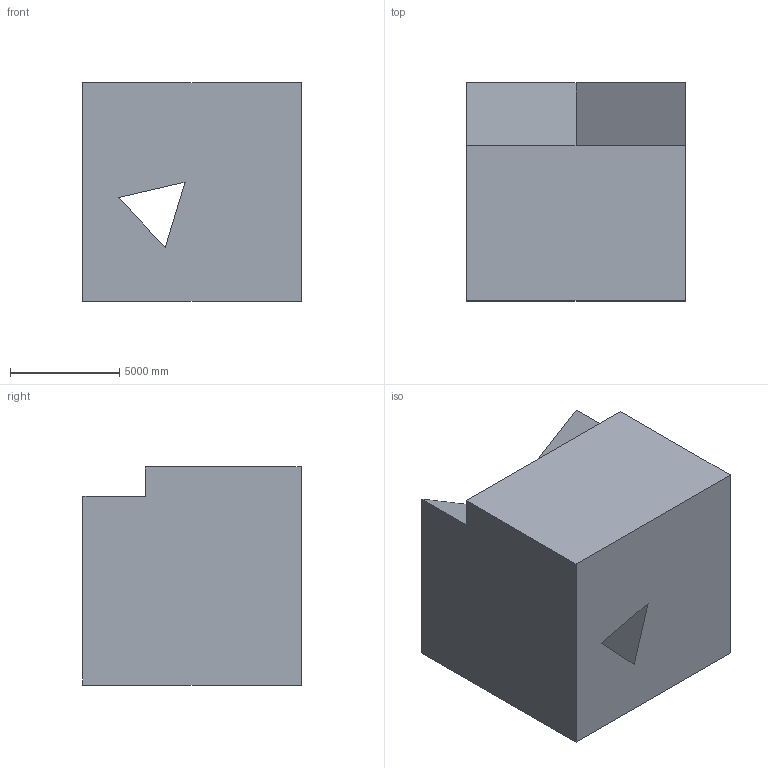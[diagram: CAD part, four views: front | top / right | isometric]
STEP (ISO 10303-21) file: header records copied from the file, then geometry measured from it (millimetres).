
FILE_DESCRIPTION (( 'STEP AP203' ), '1' );
FILE_NAME ('127.STEP', '2022-07-28T13:41:03', ( 'user' ), ( '' ), 'SwSTEP 2.0', 'SolidWorks 2021', '' );
FILE_SCHEMA (( 'CONFIG_CONTROL_DESIGN' ));
Length unit declared in the file: centimetre
Products named in the file (1): 127
Bounding box: 10000 x 10000 x 10000 mm (x, y, z)
Volume: 875895336190.2 mm3; surface area: 682355174.3 mm2
Topology: 1 solids, 1 shells, 12 faces, 30 edges, 20 vertices
Faces by surface type: plane 12
Entity records: 435 total; most frequent: CARTESIAN_POINT 63, ORIENTED_EDGE 60, DIRECTION 56, LINE 30, EDGE_CURVE 30, VECTOR 30, VERTEX_POINT 20, EDGE_LOOP 14
